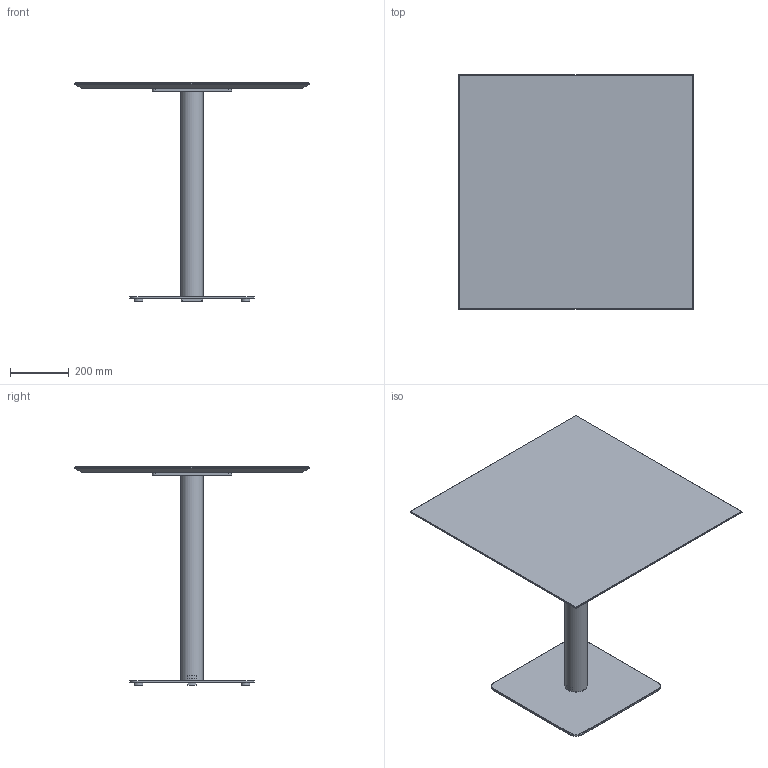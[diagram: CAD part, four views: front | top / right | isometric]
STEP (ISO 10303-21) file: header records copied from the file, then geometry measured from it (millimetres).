
FILE_DESCRIPTION( ('This file contains a STEP AP42 implementation' ,'as created by ZW3D STEP Interface translator.') ,'2;1' );
FILE_NAME( 'Henri - B_Carré - F4 - M5 - 800 x 800 x 750.stp' ,'24 912.173547', (''), ('ZWCAD Software Co.'), 'Version 1.0', 'ZW3D to STEP translator', '' );
FILE_SCHEMA(('AUTOMOTIVE_DESIGN { 1 0 10303 214 1 1 1 1 }'));
Length unit declared in the file: millimetre
Products named in the file (14): 0; PIED BISTROT PARAMETRIQUE_; COLONNE ACIER Ø76 V.02_; TUB-D076-02_; PLA-R76B-01_; CROIX ACIER 370 V.02_; CRX-X370-02_; SOCLE ACIER L 425x425 V.02_; SCL-R425-02_; PLA-R30A-01_; PLA-R30A-01; WUERTH 0276063020 Euro-screw 6.3x2 Verzinkt_; PLATEAU BISTROT PARAMETRIQUE_; insert_m6_13_
Assembly tree (22 placements, depth 3):
  0
  PIED BISTROT PARAMETRIQUE_
    COLONNE ACIER Ø76 V.02_
      TUB-D076-02_
      PLA-R76B-01_  x2
    CROIX ACIER 370 V.02_
      CRX-X370-02_
    SOCLE ACIER L 425x425 V.02_
      SCL-R425-02_
      PLA-R30A-01_
      PLA-R30A-01  x3
    WUERTH 0276063020 Euro-screw 6.3x2 Verzinkt_
    PLATEAU BISTROT PARAMETRIQUE_
      insert_m6_13_  x8
Bounding box: 800 x 800 x 744 mm (x, y, z)
Volume: 14564166.1 mm3; surface area: 2198908.8 mm2
Topology: 19 solids, 19 shells, 533 faces, 1306 edges, 818 vertices
Faces by surface type: plane 262, bspline 125, cylinder 98, cone 47, torus 1
Full cylindrical faces by diameter (mm): 4.88 x1, 6 x8, 6.3 x1, 8 x45, 12 x2, 14 x2, 30 x4, 72 x1, 76 x1
Entity records: 12210 total; most frequent: CARTESIAN_POINT 3408, ORIENTED_EDGE 1608, DIRECTION 1483, EDGE_CURVE 804, VERTEX_POINT 514, VECTOR 509, LINE 509, AXIS2_PLACEMENT_3D 487
